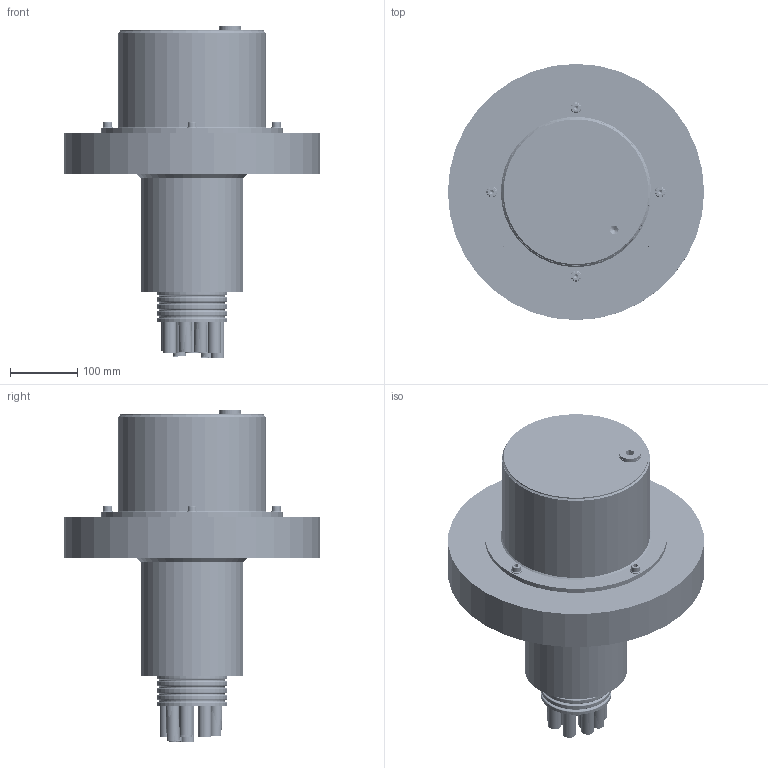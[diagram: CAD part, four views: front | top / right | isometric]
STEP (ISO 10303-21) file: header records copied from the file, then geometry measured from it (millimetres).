
FILE_DESCRIPTION(/* description */ ('/Kontrollankerkopf (K)'),/* implementation_level */ '2;1');
FILE_NAME(/* name */ 'C:\Users\glowak\Vault\CAD-Daten\Konstruktion\02b. Geotechnik\ETA-16-0262 Ankerköpfe\Dauer\mono\ETA-16-0262.K.012.40 Dauer (mono) - L12 Schutzhaube.stp',/* time_stamp */ '2024-05-28T15:28:28+02:00',/* author */ ('gpetri'),/* organization */ (''),/* preprocessor_version */ 'ST-DEVELOPER v18.1',/* originating_system */ 'Autodesk Inventor 2021',/* authorisation */ '');
FILE_SCHEMA (('AUTOMOTIVE_DESIGN { 1 0 10303 214 3 1 1 }'));
Length unit declared in the file: millimetre
Products named in the file (26): ETA-16-0262.K.012.40 Dauer (mono) - L12 Schutzhaube; 040.00.012.0600; 040.00.012.0600_1; 022.00.012.0380.0 Ankerplatte Geotechnik; Stahlrohr Ø152,4x4-DIN 2448 L=175; 003.30.012.4603.2 Gewindelochscheibe L12 Geotechnik; 575.40.012.0150.0 Schutzhaube L12; 575.40.012.0150.0 Schutzhaube L12_1; 575.40.012.0150.1 Schutzhaube Flansch L12; 575.40.012.0150.2 Schutzhaube Deckel L12; Stahlrohr Ø219,1x4,5-DIN 2448 L= 152; G3/4"  Rohrmutter DIN 431 - G3/4"; ETA-16-0262.K.012.42 Fett Schutzhaube; Inbusschraube ISO 4762 - M8 x 20 - A4-50; Unterlegscheiben ISO 7090 - 8 - 200 HV vz; 588.18.015.0250.0 Dichtung Schutzhaube L10-L15; 301.20.012.0099.0 Umlenkring Typ Mono - L12; 164.00.012.0105; 578.15.000.0109.0 Moosgummiring Ø109x15, Mono L12; 715.00.000.3322.K Verschlußschraube Dichtung 33x22
x2; 715.00.000.0908.K.1 Verschlußschraube DIN 908 G3-4 Zoll, A4; ETA-16-0262.K.012.41 Zementmörtel; 001.00.000.0000.K Litzenkeil; 670.01.000.0070 Litze; 670...; ETA-16-0262.000.01.0 PE-Rohr 19,6x1,5 L= 250
Assembly tree (73 placements, depth 3):
  ETA-16-0262.K.012.40 Dauer (mono) - L12 Schutzhaube
    040.00.012.0600
      040.00.012.0600_1
      022.00.012.0380.0 Ankerplatte Geotechnik
      Stahlrohr Ø152,4x4-DIN 2448 L=175
    003.30.012.4603.2 Gewindelochscheibe L12 Geotechnik
    575.40.012.0150.0 Schutzhaube L12
      575.40.012.0150.0 Schutzhaube L12_1
      575.40.012.0150.1 Schutzhaube Flansch L12
      575.40.012.0150.2 Schutzhaube Deckel L12
      Stahlrohr Ø219,1x4,5-DIN 2448 L= 152
      G3/4"  Rohrmutter DIN 431 - G3/4"
    ETA-16-0262.K.012.42 Fett Schutzhaube
    Inbusschraube ISO 4762 - M8 x 20 - A4-50  x4
    Unterlegscheiben ISO 7090 - 8 - 200 HV vz  x4
    588.18.015.0250.0 Dichtung Schutzhaube L10-L15
    301.20.012.0099.0 Umlenkring Typ Mono - L12
    164.00.012.0105
    578.15.000.0109.0 Moosgummiring Ø109x15, Mono L12
    715.00.000.3322.K Verschlußschraube Dichtung 33x22
x2
    715.00.000.0908.K.1 Verschlußschraube DIN 908 G3-4 Zoll, A4
    ETA-16-0262.K.012.41 Zementmörtel
    001.00.000.0000.K Litzenkeil  x12
    670.01.000.0070 Litze  x10
    670...  x12
    ETA-16-0262.000.01.0 PE-Rohr 19,6x1,5 L= 250  x12
Bounding box: 380 x 380 x 492.44 mm (x, y, z)
Volume: 10083319.8 mm3; surface area: 2187029.7 mm2
Topology: 205 solids, 205 shells, 2074 faces, 4933 edges, 3224 vertices
Faces by surface type: plane 679, cone 526, cylinder 386, bspline 276, torus 207
Full cylindrical faces by diameter (mm): 5.35 x12, 6.647 x4, 8 x4, 8.376 x3, 8.4 x4, 9 x4, 10 x4, 13 x4, 16 x4, 16.6 x12, 19 x12, 19.6 x12, 22 x1, 24.117 x1, 26.441 x1, 27.5 x1, 32 x1, 33 x1, 94 x10, 97 x10, 102 x10, 105 x10, 113 x2, 131 x1, 133 x1, 144 x1, 144.4 x1, 152.4 x2, 188 x1, 209.7 x1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
Entity records: 20015 total; most frequent: CARTESIAN_POINT 6750, DIRECTION 2850, ORIENTED_EDGE 2342, AXIS2_PLACEMENT_3D 1251, EDGE_CURVE 1171, VERTEX_POINT 767, CIRCLE 693, EDGE_LOOP 566
